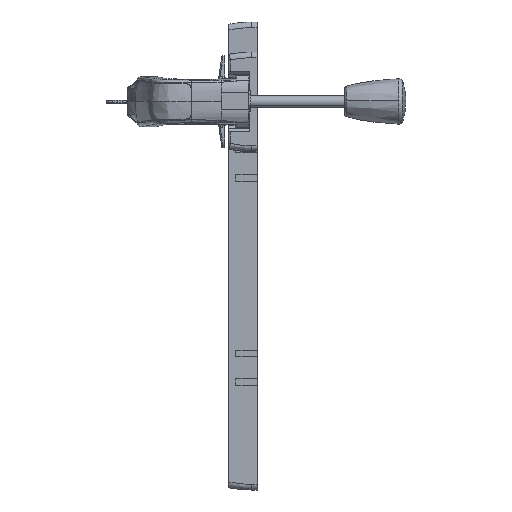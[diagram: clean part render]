
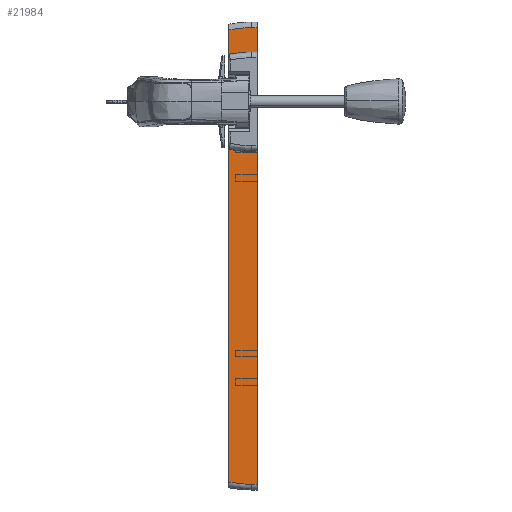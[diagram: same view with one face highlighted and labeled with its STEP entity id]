
A CAD part, top view. The second image highlights one B-rep face of the part: STEP entity #21984.
In plain terms, the highlighted planar face has unit normal (0, 0, 1) as drawn and (1, 0, 0) by its records, which use the part's own axes.
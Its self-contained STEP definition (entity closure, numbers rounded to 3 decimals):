
#1147 = EDGE_CURVE ( 'NONE', #19622, #24738, #30219, .T. ) ;
#2062 = ORIENTED_EDGE ( 'NONE', *, *, #1147, .T. ) ;
#2239 = CARTESIAN_POINT ( 'NONE',  ( 20., 52.5, -16. ) ) ;
#2757 = ORIENTED_EDGE ( 'NONE', *, *, #48834, .T. ) ;
#3223 = CARTESIAN_POINT ( 'NONE',  ( 20., 19.25, -15. ) ) ;
#4307 = VERTEX_POINT ( 'NONE', #28626 ) ;
#4828 = ORIENTED_EDGE ( 'NONE', *, *, #51114, .T. ) ;
#6505 = DIRECTION ( 'NONE',  ( -1., 0., 0. ) ) ;
#6536 = ORIENTED_EDGE ( 'NONE', *, *, #26281, .T. ) ;
#7981 = VERTEX_POINT ( 'NONE', #40455 ) ;
#8908 = VERTEX_POINT ( 'NONE', #33989 ) ;
#9661 = VECTOR ( 'NONE', #47628, 1000. ) ;
#9697 = FACE_BOUND ( 'NONE', #55495, .T. ) ;
#10952 = DIRECTION ( 'NONE',  ( 0., 0., 1. ) ) ;
#14739 = ORIENTED_EDGE ( 'NONE', *, *, #73627, .F. ) ;
#14851 = EDGE_LOOP ( 'NONE', ( #68723, #35070, #14739, #4828, #71018, #56493 ) ) ;
#14920 = LINE ( 'NONE', #21509, #40920 ) ;
#18174 = EDGE_CURVE ( 'NONE', #36836, #30162, #55949, .T. ) ;
#19294 = ORIENTED_EDGE ( 'NONE', *, *, #46953, .T. ) ;
#19622 = VERTEX_POINT ( 'NONE', #49997 ) ;
#19866 = DIRECTION ( 'NONE',  ( 0., 0., -1. ) ) ;
#20150 = DIRECTION ( 'NONE',  ( -1., 0., 0. ) ) ;
#20901 = DIRECTION ( 'NONE',  ( 0., -1., 0. ) ) ;
#21299 = DIRECTION ( 'NONE',  ( 1., 0., 0. ) ) ;
#21509 = CARTESIAN_POINT ( 'NONE',  ( 20., 56.5, 0. ) ) ;
#21984 = ADVANCED_FACE ( 'NONE', ( #74245, #9697 ), #32901, .T. ) ;
#24738 = VERTEX_POINT ( 'NONE', #66784 ) ;
#26281 = EDGE_CURVE ( 'NONE', #24738, #8908, #30615, .T. ) ;
#26824 = CARTESIAN_POINT ( 'NONE',  ( 20., 52.5, -20. ) ) ;
#28626 = CARTESIAN_POINT ( 'NONE',  ( 20., 19.25, -15. ) ) ;
#29458 = DIRECTION ( 'NONE',  ( 0., 1., 0. ) ) ;
#30162 = VERTEX_POINT ( 'NONE', #63163 ) ;
#30219 = LINE ( 'NONE', #54167, #9661 ) ;
#30615 = LINE ( 'NONE', #59619, #41654 ) ;
#31836 = LINE ( 'NONE', #3223, #45881 ) ;
#32709 = VERTEX_POINT ( 'NONE', #40997 ) ;
#32901 = PLANE ( 'NONE',  #42857 ) ;
#33111 = DIRECTION ( 'NONE',  ( 0., -1., 0. ) ) ;
#33378 = DIRECTION ( 'NONE',  ( 0., -1., 0. ) ) ;
#33989 = CARTESIAN_POINT ( 'NONE',  ( 20., 19.25, -5. ) ) ;
#34387 = CARTESIAN_POINT ( 'NONE',  ( 20., 52.5, -20. ) ) ;
#35070 = ORIENTED_EDGE ( 'NONE', *, *, #51383, .F. ) ;
#36836 = VERTEX_POINT ( 'NONE', #34387 ) ;
#38980 = AXIS2_PLACEMENT_3D ( 'NONE', #59485, #6505, #54060 ) ;
#39665 = VECTOR ( 'NONE', #19866, 1000. ) ;
#40373 = LINE ( 'NONE', #45044, #66023 ) ;
#40455 = CARTESIAN_POINT ( 'NONE',  ( 20., 50.797, 0. ) ) ;
#40920 = VECTOR ( 'NONE', #33111, 1000. ) ;
#40997 = CARTESIAN_POINT ( 'NONE',  ( 20., -269.5, -16. ) ) ;
#41654 = VECTOR ( 'NONE', #29458, 1000. ) ;
#42269 = VECTOR ( 'NONE', #61000, 1000. ) ;
#42857 = AXIS2_PLACEMENT_3D ( 'NONE', #67290, #21299, #20901 ) ;
#43626 = EDGE_CURVE ( 'NONE', #32709, #55446, #59810, .T. ) ;
#45044 = CARTESIAN_POINT ( 'NONE',  ( 20., -269.5, -20. ) ) ;
#45881 = VECTOR ( 'NONE', #74340, 1000. ) ;
#46953 = EDGE_CURVE ( 'NONE', #4307, #19622, #70419, .T. ) ;
#47628 = DIRECTION ( 'NONE',  ( 0., 0., 1. ) ) ;
#48834 = EDGE_CURVE ( 'NONE', #8908, #4307, #31836, .T. ) ;
#49997 = CARTESIAN_POINT ( 'NONE',  ( 20., -19.25, -15. ) ) ;
#50050 = LINE ( 'NONE', #26824, #39665 ) ;
#50746 = VECTOR ( 'NONE', #33378, 1000. ) ;
#51114 = EDGE_CURVE ( 'NONE', #7981, #55446, #14920, .T. ) ;
#51383 = EDGE_CURVE ( 'NONE', #65139, #36836, #50050, .T. ) ;
#52040 = CARTESIAN_POINT ( 'NONE',  ( 20., -267.797, 0. ) ) ;
#54060 = DIRECTION ( 'NONE',  ( 0., -1., 0. ) ) ;
#54167 = CARTESIAN_POINT ( 'NONE',  ( 20., -19.25, -15. ) ) ;
#55446 = VERTEX_POINT ( 'NONE', #52040 ) ;
#55495 = EDGE_LOOP ( 'NONE', ( #19294, #2062, #6536, #2757 ) ) ;
#55949 = LINE ( 'NONE', #73726, #42269 ) ;
#56493 = ORIENTED_EDGE ( 'NONE', *, *, #73122, .F. ) ;
#57500 = CIRCLE ( 'NONE', #38980, 76. ) ;
#59485 = CARTESIAN_POINT ( 'NONE',  ( 20., -23.5, -16. ) ) ;
#59619 = CARTESIAN_POINT ( 'NONE',  ( 20., 19.25, -5. ) ) ;
#59810 = CIRCLE ( 'NONE', #62288, 76. ) ;
#61000 = DIRECTION ( 'NONE',  ( 0., -1., 0. ) ) ;
#62288 = AXIS2_PLACEMENT_3D ( 'NONE', #66908, #20150, #72713 ) ;
#62754 = CARTESIAN_POINT ( 'NONE',  ( 20., 19.25, -15. ) ) ;
#63163 = CARTESIAN_POINT ( 'NONE',  ( 20., -269.5, -20. ) ) ;
#65139 = VERTEX_POINT ( 'NONE', #2239 ) ;
#66023 = VECTOR ( 'NONE', #10952, 1000. ) ;
#66784 = CARTESIAN_POINT ( 'NONE',  ( 20., -19.25, -5. ) ) ;
#66908 = CARTESIAN_POINT ( 'NONE',  ( 20., -193.5, -16. ) ) ;
#67290 = CARTESIAN_POINT ( 'NONE',  ( 20., 56.5, -20. ) ) ;
#68723 = ORIENTED_EDGE ( 'NONE', *, *, #18174, .F. ) ;
#70419 = LINE ( 'NONE', #62754, #50746 ) ;
#71018 = ORIENTED_EDGE ( 'NONE', *, *, #43626, .F. ) ;
#72713 = DIRECTION ( 'NONE',  ( 0., -1., 0. ) ) ;
#73122 = EDGE_CURVE ( 'NONE', #30162, #32709, #40373, .T. ) ;
#73627 = EDGE_CURVE ( 'NONE', #7981, #65139, #57500, .T. ) ;
#73726 = CARTESIAN_POINT ( 'NONE',  ( 20., 56.5, -20. ) ) ;
#74245 = FACE_OUTER_BOUND ( 'NONE', #14851, .T. ) ;
#74340 = DIRECTION ( 'NONE',  ( 0., 0., -1. ) ) ;
